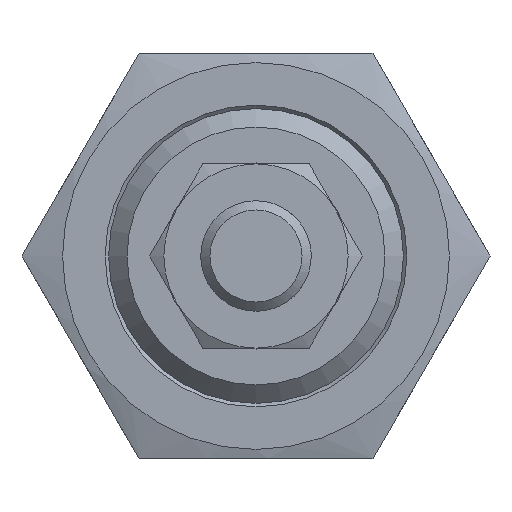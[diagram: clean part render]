
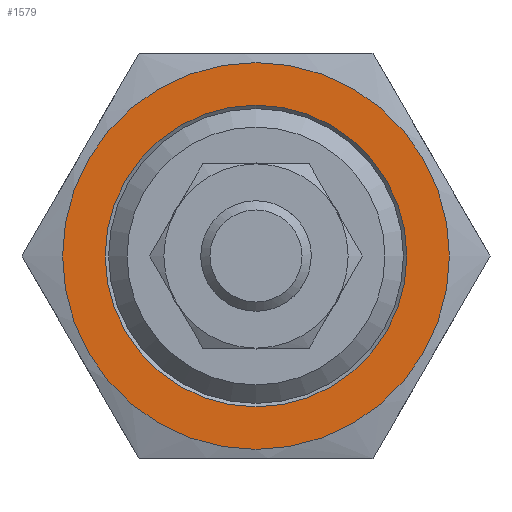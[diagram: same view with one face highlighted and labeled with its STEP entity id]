
A CAD part, front view. The second image highlights one B-rep face of the part: STEP entity #1579.
In plain terms, the highlighted planar face has unit normal (0, -1, 0) as drawn and (0, 0, 1) by its records, which use the part's own axes.
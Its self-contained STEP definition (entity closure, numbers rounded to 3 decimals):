
#254=PLANE('',#2661);
#573=ORIENTED_EDGE('',*,*,#772,.T.);
#574=ORIENTED_EDGE('',*,*,#773,.T.);
#772=EDGE_CURVE('',#916,#916,#1024,.F.);
#773=EDGE_CURVE('',#917,#917,#1025,.T.);
#916=VERTEX_POINT('',#3671);
#917=VERTEX_POINT('',#3673);
#1024=CIRCLE('',#2662,8.188);
#1025=CIRCLE('',#2663,10.5);
#1216=EDGE_LOOP('',(#573));
#1217=EDGE_LOOP('',(#574));
#1421=FACE_BOUND('',#1216,.T.);
#1422=FACE_BOUND('',#1217,.T.);
#1579=ADVANCED_FACE('',(#1421,#1422),#254,.T.);
#2661=AXIS2_PLACEMENT_3D('',#3669,#3143,#3144);
#2662=AXIS2_PLACEMENT_3D('',#3670,#3145,#3146);
#2663=AXIS2_PLACEMENT_3D('',#3672,#3147,#3148);
#3143=DIRECTION('',(0.,0.,1.));
#3144=DIRECTION('',(1.,0.,0.));
#3145=DIRECTION('',(0.,0.,1.));
#3146=DIRECTION('',(1.,0.,0.));
#3147=DIRECTION('',(0.,0.,1.));
#3148=DIRECTION('',(1.,0.,0.));
#3669=CARTESIAN_POINT('',(0.,0.,3.));
#3670=CARTESIAN_POINT('',(0.,0.,3.));
#3671=CARTESIAN_POINT('',(8.188,0.,3.));
#3672=CARTESIAN_POINT('',(0.,0.,3.));
#3673=CARTESIAN_POINT('',(10.5,0.,3.));
